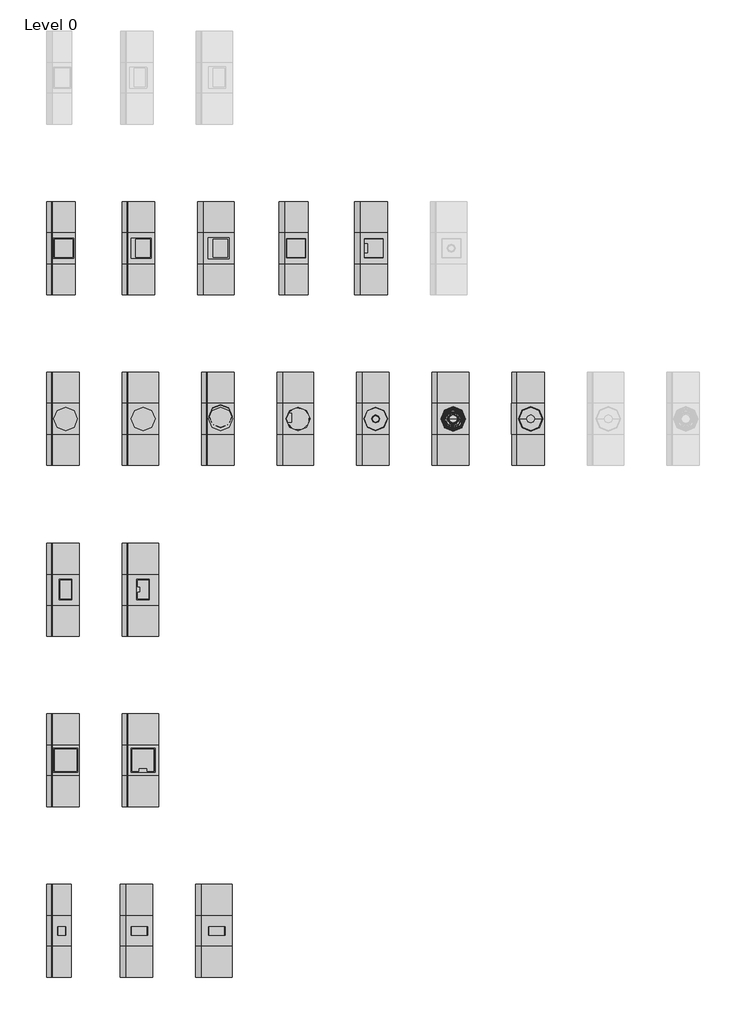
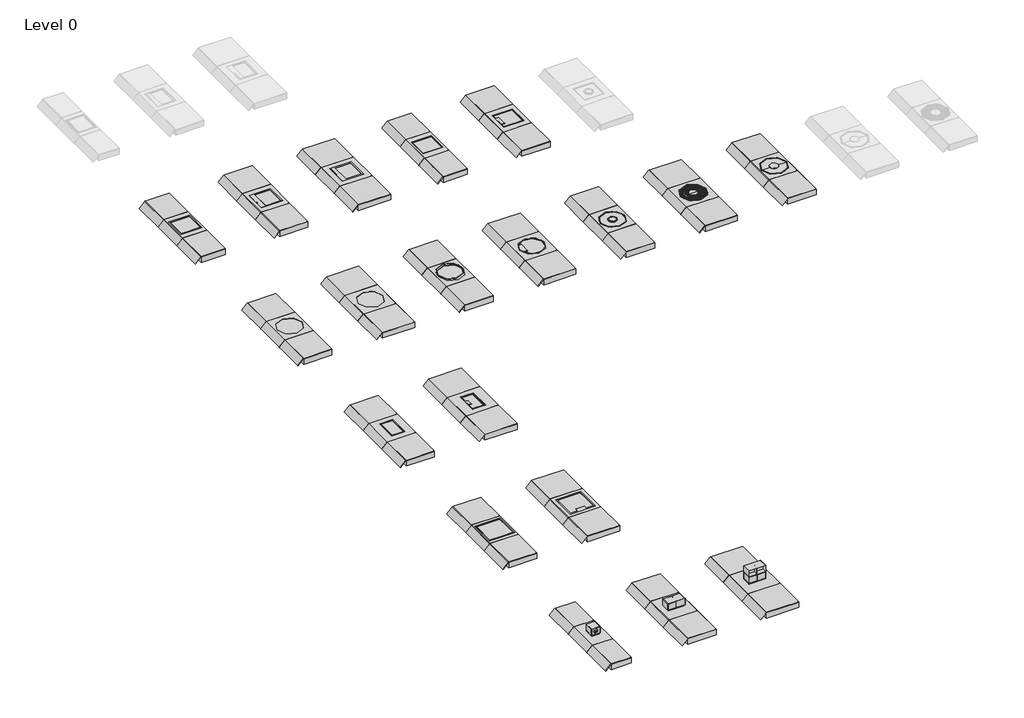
# One storey, part 1 of 2: 74 proxies, 19 cable carrier segments.
"""IFC4 building model written with IfcOpenShell, lengths in millimetres."""

from ifc_helpers import new_model, si_unit, frame, origin, place, context, project, spatial, polyline, outline, extrude, transform, mapped, element, save
from components import electrical_fixtures_814ce579, electrical_fixtures_1408edab, electrical_fixtures_e29cb0aa, electrical_fixtures_057aeb0d, electrical_fixtures_bc675c06, electrical_fixtures_8ed366d0, electrical_fixtures_8427cab8, electrical_fixtures_2923e737, electrical_fixtures_6f066a29, electrical_fixtures_dd45cec8, electrical_fixtures_6b5bff6d, electrical_fixtures_3a1a2a50, electrical_fixtures_38a7e8f5, electrical_fixtures_79a94ea6, electrical_fixtures_345be723, electrical_fixtures_3529a418, electrical_fixtures_39b6e9ab, electrical_fixtures_66444e16, electrical_fixtures_d09597e5, electrical_fixtures_02c799a8, electrical_fixtures_ac32d23e, electrical_fixtures_5756d35e, color_deep_black_c4cdae59, color_deep_black_3e0b7094, color_deep_black_f01a6ed9, color_deep_black_c19cb628, color_deep_black_fa90bbad, color_deep_black_919f03ab, stainless_steel_cassette_q12_bl_outer_height_28mm_38aa1d54, stainless_steel_cassette_q12_le_outer_height_28mm_4387def9, stainless_steel_cassette_r12_bl_outer_height_28mm_40ef087e, stainless_steel_cassette_r12_le_outer_height_28mm_8af35c53, stainless_steel_cassette_r12_tm_outer_height_28mm_dc089dfa

model = new_model("IFC4")

# Units and contexts
model_context = context("Model", 3, world=origin())
ifc_project = project(units=[si_unit("LENGTHUNIT", "METRE", prefix="MILLI")], contexts=[model_context])

# Site, building, storey
site = spatial("IfcSite", under=ifc_project)
building = spatial("IfcBuilding", under=site)
storey = spatial("IfcBuildingStorey", under=building, Name="Level 0", Elevation=0.0)

# Proxies
placement = place(None, origin())
electrical_fixtures_shape = electrical_fixtures_814ce579(model_context)
element("IfcBuildingElementProxy", 1, Name="Electrical_Installation_Hager_Covers-With-Installation-Opening-Q12 : Electrical_Installation_Hager_Covers-With-Installation-Opening-Q12", ObjectType="Electrical_Installation_Hager_Covers-With-Installation-Opening-Q12 : Electrical_Installation_Hager_Covers-With-Installation-Opening-Q12", at=placement, inside=storey, context=model_context, shape_type="MappedRepresentation", body=[
    mapped(electrical_fixtures_shape, transform((-23489.0073184, -1020.0103905, 0.0), x_axis=(0.0, -1.0, 0.0), y_axis=(1.0, 0.0, 0.0), z_axis=(0.0, 0.0, 1.0))),
])
element("IfcBuildingElementProxy", 2, Name="Electrical_Installation_Hager_Covers-With-Installation-Opening-Q12 : Electrical_Installation_Hager_Covers-With-Installation-Opening-Q12", ObjectType="Electrical_Installation_Hager_Covers-With-Installation-Opening-Q12 : Electrical_Installation_Hager_Covers-With-Installation-Opening-Q12", at=placement, inside=storey, context=model_context, shape_type="MappedRepresentation", body=[
    mapped(electrical_fixtures_shape, transform((-20489.0073184, -1020.0103905, 0.0), x_axis=(0.0, -1.0, 0.0), y_axis=(1.0, 0.0, 0.0), z_axis=(0.0, 0.0, 1.0))),
])
electrical_fixtures_2_shape = electrical_fixtures_1408edab(model_context)
element("IfcBuildingElementProxy", 3, Name="Electrical_Installation_Hager_Covers-With-Installation-Opening-Q12 : Electrical_Installation_Hager_Covers-With-Installation-Opening-Q12", ObjectType="Electrical_Installation_Hager_Covers-With-Installation-Opening-Q12 : Electrical_Installation_Hager_Covers-With-Installation-Opening-Q12", at=placement, inside=storey, context=model_context, shape_type="MappedRepresentation", body=[
    mapped(electrical_fixtures_2_shape, transform((-22489.0073184, -1020.0103905, 0.0), x_axis=(0.0, -1.0, 0.0), y_axis=(1.0, 0.0, 0.0), z_axis=(0.0, 0.0, 1.0))),
])
electrical_fixtures_3_shape = electrical_fixtures_e29cb0aa(model_context)
element("IfcBuildingElementProxy", 4, Name="Electrical_Installation_Hager_VE-EE_VANR_3mm_Service-unit-for-wet-cleaned-floors-for-the-installation-tube-cable-outlet-made-of-aluminium : Service unit R12 w set HB wet Al-Tub 3mm", ObjectType="Electrical_Installation_Hager_VE-EE_VANR_3mm_Service-unit-for-wet-cleaned-floors-for-the-installation-tube-cable-outlet-made-of-aluminium : Service unit R12 w set HB wet Al-Tub 3mm", at=placement, inside=storey, context=model_context, shape_type="MappedRepresentation", body=[
    mapped(electrical_fixtures_3_shape, transform((-18464.0073184, -3420.0103905, 40.5), x_axis=(0.0, -1.0, 0.0), y_axis=(1.0, 0.0, 0.0), z_axis=(0.0, 0.0, 1.0))),
])
electrical_fixtures_4_shape = electrical_fixtures_057aeb0d(model_context)
element("IfcBuildingElementProxy", 5, Name="Electrical_Installation_Hager_VE-EE_VANR-Service-unit-for-wet-cleaned-floors-for-the-installation-tube-cable-outlet-made-of-aluminium : Service unit R12 w set HB wet Al-Tub R", ObjectType="Electrical_Installation_Hager_VE-EE_VANR-Service-unit-for-wet-cleaned-floors-for-the-installation-tube-cable-outlet-made-of-aluminium : Service unit R12 w set HB wet Al-Tub R", at=placement, inside=storey, context=model_context, shape_type="MappedRepresentation", body=[
    mapped(electrical_fixtures_4_shape, transform((-19464.0073184, -3420.0103905, 40.5), x_axis=(0.0, -1.0, 0.0), y_axis=(1.0, 0.0, 0.0), z_axis=(0.0, 0.0, 1.0))),
])
electrical_fixtures_5_shape = electrical_fixtures_bc675c06(model_context)
element("IfcBuildingElementProxy", 6, Name="Electrical_Installation_Hager_VE-EE_Pedestal-box-2 : GB pedestal box 2 inst. fields iron gray", ObjectType="Electrical_Installation_Hager_VE-EE_Pedestal-box-2 : GB pedestal box 2 inst. fields iron gray", at=placement, inside=storey, context=model_context, shape_type="MappedRepresentation", body=[
    mapped(electrical_fixtures_5_shape, transform((-24514.0073184, -10020.0103905, 40.5), x_axis=(0.0, -1.0, 0.0), y_axis=(1.0, 0.0, 0.0), z_axis=(0.0, 0.0, 1.0))),
])
electrical_fixtures_6_shape = electrical_fixtures_8ed366d0(model_context)
element("IfcBuildingElementProxy", 7, Name="Electrical_Installation_Hager_VE-EE_Pedestal-box-4 : GB pedestal box 4 inst. fields iron gray", ObjectType="Electrical_Installation_Hager_VE-EE_Pedestal-box-4 : GB pedestal box 4 inst. fields iron gray", at=placement, inside=storey, context=model_context, shape_type="MappedRepresentation", body=[
    mapped(electrical_fixtures_6_shape, transform((-23514.0073184, -10020.0103905, 40.5), x_axis=(0.0, -1.0, 0.0), y_axis=(1.0, 0.0, 0.0), z_axis=(0.0, 0.0, 1.0))),
])
electrical_fixtures_7_shape = electrical_fixtures_8427cab8(model_context)
element("IfcBuildingElementProxy", 8, Name="Electrical_Installation_Hager_VE-EE_Service-unit-VQ12-made-of-stainless-steel : Electrical_Installation_Hager_VE-EE_Service-unit-VQ12-made-of-stainless-steel", ObjectType="Electrical_Installation_Hager_VE-EE_Service-unit-VQ12-made-of-stainless-steel : Electrical_Installation_Hager_VE-EE_Service-unit-VQ12-made-of-stainless-steel", at=placement, inside=storey, context=model_context, shape_type="MappedRepresentation", body=[
    mapped(electrical_fixtures_7_shape, transform((-22489.0073184, -1220.0103905, 40.5), x_axis=(0.0, -1.0, 0.0), y_axis=(1.0, 0.0, 0.0), z_axis=(0.0, 0.0, 1.0))),
])
electrical_fixtures_8_shape = electrical_fixtures_2923e737(model_context)
element("IfcBuildingElementProxy", 9, Name="Electrical_Installation_Hager_Covers-With-Installation-Opening-Q08 : Electrical_Installation_Hager_Covers-With-Installation-Opening-Q08", ObjectType="Electrical_Installation_Hager_Covers-With-Installation-Opening-Q08 : Electrical_Installation_Hager_Covers-With-Installation-Opening-Q08", at=placement, inside=storey, context=model_context, shape_type="MappedRepresentation", body=[
    mapped(electrical_fixtures_8_shape, transform((-24463.9572711, -7620.0103905, 0.0), x_axis=(0.0, -1.0, 0.0), y_axis=(1.0, 0.0, 0.0), z_axis=(0.0, 0.0, 1.0))),
])
electrical_fixtures_9_shape = electrical_fixtures_6f066a29(model_context)
element("IfcBuildingElementProxy", 10, Name="Electrical_Installation_Hager_Covers-With-Installation-Opening-Q12 : Electrical_Installation_Hager_Covers-With-Installation-Opening-Q12", ObjectType="Electrical_Installation_Hager_Covers-With-Installation-Opening-Q12 : Electrical_Installation_Hager_Covers-With-Installation-Opening-Q12", at=placement, inside=storey, context=model_context, shape_type="MappedRepresentation", body=[
    mapped(electrical_fixtures_9_shape, transform((-24489.0073184, -1020.0103905, 0.0), x_axis=(0.0, -1.0, 0.0), y_axis=(1.0, 0.0, 0.0), z_axis=(0.0, 0.0, 1.0))),
])
element("IfcBuildingElementProxy", 11, Name="Electrical_Installation_Hager_Covers-With-Installation-Opening-Q12 : Electrical_Installation_Hager_Covers-With-Installation-Opening-Q12", ObjectType="Electrical_Installation_Hager_Covers-With-Installation-Opening-Q12 : Electrical_Installation_Hager_Covers-With-Installation-Opening-Q12", at=placement, inside=storey, context=model_context, shape_type="MappedRepresentation", body=[
    mapped(electrical_fixtures_9_shape, transform((-21489.0073184, -1020.0103905, 0.0), x_axis=(0.0, -1.0, 0.0), y_axis=(1.0, 0.0, 0.0), z_axis=(0.0, 0.0, 1.0))),
])
electrical_fixtures_10_shape = electrical_fixtures_dd45cec8(model_context)
element("IfcBuildingElementProxy", 12, Name="Electrical_Installation_Hager_VE-EE_Pedestal-box-8 : GB pedestal box 8 inst. fields iron gray", ObjectType="Electrical_Installation_Hager_VE-EE_Pedestal-box-8 : GB pedestal box 8 inst. fields iron gray", at=placement, inside=storey, context=model_context, shape_type="MappedRepresentation", body=[
    mapped(electrical_fixtures_10_shape, transform((-22514.0073184, -10020.0103905, 40.5), x_axis=(0.0, -1.0, 0.0), y_axis=(1.0, 0.0, 0.0), z_axis=(0.0, 0.0, 1.0))),
])
electrical_fixtures_11_shape = electrical_fixtures_6b5bff6d(model_context)
element("IfcBuildingElementProxy", 13, Name="Electrical_Installation_Hager_Covers-With-Installation-Opening-R12 : Electrical_Installation_Hager_Covers-With-Installation-Opening-R12", ObjectType="Electrical_Installation_Hager_Covers-With-Installation-Opening-R12 : Electrical_Installation_Hager_Covers-With-Installation-Opening-R12", at=placement, inside=storey, context=model_context, shape_type="MappedRepresentation", body=[
    mapped(electrical_fixtures_11_shape, transform((-24464.0073184, -3220.0103905, 0.0), x_axis=(0.0, -1.0, 0.0), y_axis=(1.0, 0.0, 0.0), z_axis=(0.0, 0.0, 1.0))),
])
element("IfcBuildingElementProxy", 14, Name="Electrical_Installation_Hager_Covers-With-Installation-Opening-R12 : Electrical_Installation_Hager_Covers-With-Installation-Opening-R12", ObjectType="Electrical_Installation_Hager_Covers-With-Installation-Opening-R12 : Electrical_Installation_Hager_Covers-With-Installation-Opening-R12", at=placement, inside=storey, context=model_context, shape_type="MappedRepresentation", body=[
    mapped(electrical_fixtures_11_shape, transform((-22464.0073184, -3220.0103905, 0.0), x_axis=(0.0, -1.0, 0.0), y_axis=(1.0, 0.0, 0.0), z_axis=(0.0, 0.0, 1.0))),
])
element("IfcBuildingElementProxy", 15, Name="Electrical_Installation_Hager_Covers-With-Installation-Opening-R12 : Electrical_Installation_Hager_Covers-With-Installation-Opening-R12", ObjectType="Electrical_Installation_Hager_Covers-With-Installation-Opening-R12 : Electrical_Installation_Hager_Covers-With-Installation-Opening-R12", at=placement, inside=storey, context=model_context, shape_type="MappedRepresentation", body=[
    mapped(electrical_fixtures_11_shape, transform((-20464.0073184, -3220.0103905, 0.0), x_axis=(0.0, -1.0, 0.0), y_axis=(1.0, 0.0, 0.0), z_axis=(0.0, 0.0, 1.0))),
])
element("IfcBuildingElementProxy", 16, Name="Electrical_Installation_Hager_Covers-With-Installation-Opening-R12 : Electrical_Installation_Hager_Covers-With-Installation-Opening-R12", ObjectType="Electrical_Installation_Hager_Covers-With-Installation-Opening-R12 : Electrical_Installation_Hager_Covers-With-Installation-Opening-R12", at=placement, inside=storey, context=model_context, shape_type="MappedRepresentation", body=[
    mapped(electrical_fixtures_11_shape, transform((-18464.0073184, -3220.0103905, 0.0), x_axis=(0.0, -1.0, 0.0), y_axis=(1.0, 0.0, 0.0), z_axis=(0.0, 0.0, 1.0))),
])
electrical_fixtures_12_shape = electrical_fixtures_3a1a2a50(model_context)
element("IfcBuildingElementProxy", 17, Name="Electrical_Installation_Hager_Covers-With-Installation-Opening-R12 : Electrical_Installation_Hager_Covers-With-Installation-Opening-R12", ObjectType="Electrical_Installation_Hager_Covers-With-Installation-Opening-R12 : Electrical_Installation_Hager_Covers-With-Installation-Opening-R12", at=placement, inside=storey, context=model_context, shape_type="MappedRepresentation", body=[
    mapped(electrical_fixtures_12_shape, transform((-23464.0073184, -3220.0103905, 0.0), x_axis=(0.0, -1.0, 0.0), y_axis=(1.0, 0.0, 0.0), z_axis=(0.0, 0.0, 1.0))),
])
element("IfcBuildingElementProxy", 18, Name="Electrical_Installation_Hager_Covers-With-Installation-Opening-R12 : Electrical_Installation_Hager_Covers-With-Installation-Opening-R12", ObjectType="Electrical_Installation_Hager_Covers-With-Installation-Opening-R12 : Electrical_Installation_Hager_Covers-With-Installation-Opening-R12", at=placement, inside=storey, context=model_context, shape_type="MappedRepresentation", body=[
    mapped(electrical_fixtures_12_shape, transform((-21464.0073184, -3220.0103905, 0.0), x_axis=(0.0, -1.0, 0.0), y_axis=(1.0, 0.0, 0.0), z_axis=(0.0, 0.0, 1.0))),
])
element("IfcBuildingElementProxy", 19, Name="Electrical_Installation_Hager_Covers-With-Installation-Opening-R12 : Electrical_Installation_Hager_Covers-With-Installation-Opening-R12", ObjectType="Electrical_Installation_Hager_Covers-With-Installation-Opening-R12 : Electrical_Installation_Hager_Covers-With-Installation-Opening-R12", at=placement, inside=storey, context=model_context, shape_type="MappedRepresentation", body=[
    mapped(electrical_fixtures_12_shape, transform((-19464.0073184, -3220.0103905, 0.0), x_axis=(0.0, -1.0, 0.0), y_axis=(1.0, 0.0, 0.0), z_axis=(0.0, 0.0, 1.0))),
])
electrical_fixtures_13_shape = electrical_fixtures_38a7e8f5(model_context)
element("IfcBuildingElementProxy", 20, Name="Electrical_Installation_Hager_Blank-Cover-400mm-Single-Sided-Height-70mm : Electrical_Installation_Hager_Blank-Cover-400mm-Single-Sided-Height-70mm", ObjectType="Electrical_Installation_Hager_Blank-Cover-400mm-Single-Sided-Height-70mm : Electrical_Installation_Hager_Blank-Cover-400mm-Single-Sided-Height-70mm", at=placement, inside=storey, context=model_context, shape_type="MappedRepresentation", body=[
    mapped(electrical_fixtures_13_shape, transform((-24514.0073184, -9420.0103905, 0.0), x_axis=(0.0, -1.0, 0.0), y_axis=(1.0, 0.0, 0.0), z_axis=(0.0, 0.0, 1.0))),
])
element("IfcBuildingElementProxy", 21, Name="Electrical_Installation_Hager_Blank-Cover-400mm-Single-Sided-Height-70mm : Electrical_Installation_Hager_Blank-Cover-400mm-Single-Sided-Height-70mm", ObjectType="Electrical_Installation_Hager_Blank-Cover-400mm-Single-Sided-Height-70mm : Electrical_Installation_Hager_Blank-Cover-400mm-Single-Sided-Height-70mm", at=placement, inside=storey, context=model_context, shape_type="MappedRepresentation", body=[
    mapped(electrical_fixtures_13_shape, transform((-24514.0073184, -10220.0103905, 0.0), x_axis=(0.0, -1.0, 0.0), y_axis=(1.0, 0.0, 0.0), z_axis=(0.0, 0.0, 1.0))),
])
electrical_fixtures_14_shape = electrical_fixtures_79a94ea6(model_context)
element("IfcBuildingElementProxy", 22, Name="Electrical_Installation_Hager_Blank-Cover-400mm-Single-Sided-Height-70mm : Electrical_Installation_Hager_Blank-Cover-400mm-Single-Sided-Height-70mm", ObjectType="Electrical_Installation_Hager_Blank-Cover-400mm-Single-Sided-Height-70mm : Electrical_Installation_Hager_Blank-Cover-400mm-Single-Sided-Height-70mm", at=placement, inside=storey, context=model_context, shape_type="MappedRepresentation", body=[
    mapped(electrical_fixtures_14_shape, transform((-23489.0073184, -620.0103905, 0.0), x_axis=(0.0, -1.0, 0.0), y_axis=(1.0, 0.0, 0.0), z_axis=(0.0, 0.0, 1.0))),
])
element("IfcBuildingElementProxy", 23, Name="Electrical_Installation_Hager_Blank-Cover-400mm-Single-Sided-Height-70mm : Electrical_Installation_Hager_Blank-Cover-400mm-Single-Sided-Height-70mm", ObjectType="Electrical_Installation_Hager_Blank-Cover-400mm-Single-Sided-Height-70mm : Electrical_Installation_Hager_Blank-Cover-400mm-Single-Sided-Height-70mm", at=placement, inside=storey, context=model_context, shape_type="MappedRepresentation", body=[
    mapped(electrical_fixtures_14_shape, transform((-23489.0073184, -1420.0103905, 0.0), x_axis=(0.0, -1.0, 0.0), y_axis=(1.0, 0.0, 0.0), z_axis=(0.0, 0.0, 1.0))),
])
element("IfcBuildingElementProxy", 24, Name="Electrical_Installation_Hager_Blank-Cover-400mm-Single-Sided-Height-70mm : Electrical_Installation_Hager_Blank-Cover-400mm-Single-Sided-Height-70mm", ObjectType="Electrical_Installation_Hager_Blank-Cover-400mm-Single-Sided-Height-70mm : Electrical_Installation_Hager_Blank-Cover-400mm-Single-Sided-Height-70mm", at=placement, inside=storey, context=model_context, shape_type="MappedRepresentation", body=[
    mapped(electrical_fixtures_14_shape, transform((-20489.0073184, -620.0103905, 0.0), x_axis=(0.0, -1.0, 0.0), y_axis=(1.0, 0.0, 0.0), z_axis=(0.0, 0.0, 1.0))),
])
element("IfcBuildingElementProxy", 25, Name="Electrical_Installation_Hager_Blank-Cover-400mm-Single-Sided-Height-70mm : Electrical_Installation_Hager_Blank-Cover-400mm-Single-Sided-Height-70mm", ObjectType="Electrical_Installation_Hager_Blank-Cover-400mm-Single-Sided-Height-70mm : Electrical_Installation_Hager_Blank-Cover-400mm-Single-Sided-Height-70mm", at=placement, inside=storey, context=model_context, shape_type="MappedRepresentation", body=[
    mapped(electrical_fixtures_14_shape, transform((-20489.0073184, -1420.0103905, 0.0), x_axis=(0.0, -1.0, 0.0), y_axis=(1.0, 0.0, 0.0), z_axis=(0.0, 0.0, 1.0))),
])
element("IfcBuildingElementProxy", 26, Name="Electrical_Installation_Hager_Blank-Cover-400mm-Single-Sided-Height-70mm : Electrical_Installation_Hager_Blank-Cover-400mm-Single-Sided-Height-70mm", ObjectType="Electrical_Installation_Hager_Blank-Cover-400mm-Single-Sided-Height-70mm : Electrical_Installation_Hager_Blank-Cover-400mm-Single-Sided-Height-70mm", at=placement, inside=storey, context=model_context, shape_type="MappedRepresentation", body=[
    mapped(electrical_fixtures_14_shape, transform((-24464.0073184, -2820.0103905, 0.0), x_axis=(0.0, -1.0, 0.0), y_axis=(1.0, 0.0, 0.0), z_axis=(0.0, 0.0, 1.0))),
])
element("IfcBuildingElementProxy", 27, Name="Electrical_Installation_Hager_Blank-Cover-400mm-Single-Sided-Height-70mm : Electrical_Installation_Hager_Blank-Cover-400mm-Single-Sided-Height-70mm", ObjectType="Electrical_Installation_Hager_Blank-Cover-400mm-Single-Sided-Height-70mm : Electrical_Installation_Hager_Blank-Cover-400mm-Single-Sided-Height-70mm", at=placement, inside=storey, context=model_context, shape_type="MappedRepresentation", body=[
    mapped(electrical_fixtures_14_shape, transform((-24464.0073184, -3620.0103905, 0.0), x_axis=(0.0, -1.0, 0.0), y_axis=(1.0, 0.0, 0.0), z_axis=(0.0, 0.0, 1.0))),
])
element("IfcBuildingElementProxy", 28, Name="Electrical_Installation_Hager_Blank-Cover-400mm-Single-Sided-Height-70mm : Electrical_Installation_Hager_Blank-Cover-400mm-Single-Sided-Height-70mm", ObjectType="Electrical_Installation_Hager_Blank-Cover-400mm-Single-Sided-Height-70mm : Electrical_Installation_Hager_Blank-Cover-400mm-Single-Sided-Height-70mm", at=placement, inside=storey, context=model_context, shape_type="MappedRepresentation", body=[
    mapped(electrical_fixtures_14_shape, transform((-22464.0073184, -2820.0103905, 0.0), x_axis=(0.0, -1.0, 0.0), y_axis=(1.0, 0.0, 0.0), z_axis=(0.0, 0.0, 1.0))),
])
element("IfcBuildingElementProxy", 29, Name="Electrical_Installation_Hager_Blank-Cover-400mm-Single-Sided-Height-70mm : Electrical_Installation_Hager_Blank-Cover-400mm-Single-Sided-Height-70mm", ObjectType="Electrical_Installation_Hager_Blank-Cover-400mm-Single-Sided-Height-70mm : Electrical_Installation_Hager_Blank-Cover-400mm-Single-Sided-Height-70mm", at=placement, inside=storey, context=model_context, shape_type="MappedRepresentation", body=[
    mapped(electrical_fixtures_14_shape, transform((-22464.0073184, -3620.0103905, 0.0), x_axis=(0.0, -1.0, 0.0), y_axis=(1.0, 0.0, 0.0), z_axis=(0.0, 0.0, 1.0))),
])
element("IfcBuildingElementProxy", 30, Name="Electrical_Installation_Hager_Blank-Cover-400mm-Single-Sided-Height-70mm : Electrical_Installation_Hager_Blank-Cover-400mm-Single-Sided-Height-70mm", ObjectType="Electrical_Installation_Hager_Blank-Cover-400mm-Single-Sided-Height-70mm : Electrical_Installation_Hager_Blank-Cover-400mm-Single-Sided-Height-70mm", at=placement, inside=storey, context=model_context, shape_type="MappedRepresentation", body=[
    mapped(electrical_fixtures_14_shape, transform((-20464.0073184, -2820.0103905, 0.0), x_axis=(0.0, -1.0, 0.0), y_axis=(1.0, 0.0, 0.0), z_axis=(0.0, 0.0, 1.0))),
])
element("IfcBuildingElementProxy", 31, Name="Electrical_Installation_Hager_Blank-Cover-400mm-Single-Sided-Height-70mm : Electrical_Installation_Hager_Blank-Cover-400mm-Single-Sided-Height-70mm", ObjectType="Electrical_Installation_Hager_Blank-Cover-400mm-Single-Sided-Height-70mm : Electrical_Installation_Hager_Blank-Cover-400mm-Single-Sided-Height-70mm", at=placement, inside=storey, context=model_context, shape_type="MappedRepresentation", body=[
    mapped(electrical_fixtures_14_shape, transform((-20464.0073184, -3620.0103905, 0.0), x_axis=(0.0, -1.0, 0.0), y_axis=(1.0, 0.0, 0.0), z_axis=(0.0, 0.0, 1.0))),
])
element("IfcBuildingElementProxy", 32, Name="Electrical_Installation_Hager_Blank-Cover-400mm-Single-Sided-Height-70mm : Electrical_Installation_Hager_Blank-Cover-400mm-Single-Sided-Height-70mm", ObjectType="Electrical_Installation_Hager_Blank-Cover-400mm-Single-Sided-Height-70mm : Electrical_Installation_Hager_Blank-Cover-400mm-Single-Sided-Height-70mm", at=placement, inside=storey, context=model_context, shape_type="MappedRepresentation", body=[
    mapped(electrical_fixtures_14_shape, transform((-18464.0073184, -2820.0103905, 0.0), x_axis=(0.0, -1.0, 0.0), y_axis=(1.0, 0.0, 0.0), z_axis=(0.0, 0.0, 1.0))),
])
element("IfcBuildingElementProxy", 33, Name="Electrical_Installation_Hager_Blank-Cover-400mm-Single-Sided-Height-70mm : Electrical_Installation_Hager_Blank-Cover-400mm-Single-Sided-Height-70mm", ObjectType="Electrical_Installation_Hager_Blank-Cover-400mm-Single-Sided-Height-70mm : Electrical_Installation_Hager_Blank-Cover-400mm-Single-Sided-Height-70mm", at=placement, inside=storey, context=model_context, shape_type="MappedRepresentation", body=[
    mapped(electrical_fixtures_14_shape, transform((-18464.0073184, -3620.0103905, 0.0), x_axis=(0.0, -1.0, 0.0), y_axis=(1.0, 0.0, 0.0), z_axis=(0.0, 0.0, 1.0))),
])
element("IfcBuildingElementProxy", 34, Name="Electrical_Installation_Hager_Blank-Cover-400mm-Single-Sided-Height-70mm : Electrical_Installation_Hager_Blank-Cover-400mm-Single-Sided-Height-70mm", ObjectType="Electrical_Installation_Hager_Blank-Cover-400mm-Single-Sided-Height-70mm : Electrical_Installation_Hager_Blank-Cover-400mm-Single-Sided-Height-70mm", at=placement, inside=storey, context=model_context, shape_type="MappedRepresentation", body=[
    mapped(electrical_fixtures_14_shape, transform((-24464.0073184, -5020.0103905, 0.0), x_axis=(0.0, -1.0, 0.0), y_axis=(1.0, 0.0, 0.0), z_axis=(0.0, 0.0, 1.0))),
])
element("IfcBuildingElementProxy", 35, Name="Electrical_Installation_Hager_Blank-Cover-400mm-Single-Sided-Height-70mm : Electrical_Installation_Hager_Blank-Cover-400mm-Single-Sided-Height-70mm", ObjectType="Electrical_Installation_Hager_Blank-Cover-400mm-Single-Sided-Height-70mm : Electrical_Installation_Hager_Blank-Cover-400mm-Single-Sided-Height-70mm", at=placement, inside=storey, context=model_context, shape_type="MappedRepresentation", body=[
    mapped(electrical_fixtures_14_shape, transform((-24464.0073184, -5820.0103905, 0.0), x_axis=(0.0, -1.0, 0.0), y_axis=(1.0, 0.0, 0.0), z_axis=(0.0, 0.0, 1.0))),
])
element("IfcBuildingElementProxy", 36, Name="Electrical_Installation_Hager_Blank-Cover-400mm-Single-Sided-Height-70mm : Electrical_Installation_Hager_Blank-Cover-400mm-Single-Sided-Height-70mm", ObjectType="Electrical_Installation_Hager_Blank-Cover-400mm-Single-Sided-Height-70mm : Electrical_Installation_Hager_Blank-Cover-400mm-Single-Sided-Height-70mm", at=placement, inside=storey, context=model_context, shape_type="MappedRepresentation", body=[
    mapped(electrical_fixtures_14_shape, transform((-24463.9572711, -7220.0103905, 0.0), x_axis=(0.0, -1.0, 0.0), y_axis=(1.0, 0.0, 0.0), z_axis=(0.0, 0.0, 1.0))),
])
element("IfcBuildingElementProxy", 37, Name="Electrical_Installation_Hager_Blank-Cover-400mm-Single-Sided-Height-70mm : Electrical_Installation_Hager_Blank-Cover-400mm-Single-Sided-Height-70mm", ObjectType="Electrical_Installation_Hager_Blank-Cover-400mm-Single-Sided-Height-70mm : Electrical_Installation_Hager_Blank-Cover-400mm-Single-Sided-Height-70mm", at=placement, inside=storey, context=model_context, shape_type="MappedRepresentation", body=[
    mapped(electrical_fixtures_14_shape, transform((-24463.9572711, -8020.0103905, 0.0), x_axis=(0.0, -1.0, 0.0), y_axis=(1.0, 0.0, 0.0), z_axis=(0.0, 0.0, 1.0))),
])
element("IfcBuildingElementProxy", 38, Name="Electrical_Installation_Hager_Blank-Cover-400mm-Single-Sided-Height-70mm : Electrical_Installation_Hager_Blank-Cover-400mm-Single-Sided-Height-70mm", ObjectType="Electrical_Installation_Hager_Blank-Cover-400mm-Single-Sided-Height-70mm : Electrical_Installation_Hager_Blank-Cover-400mm-Single-Sided-Height-70mm", at=placement, inside=storey, context=model_context, shape_type="MappedRepresentation", body=[
    mapped(electrical_fixtures_14_shape, transform((-23514.0073184, -9420.0103905, 0.0), x_axis=(0.0, -1.0, 0.0), y_axis=(1.0, 0.0, 0.0), z_axis=(0.0, 0.0, 1.0))),
])
element("IfcBuildingElementProxy", 39, Name="Electrical_Installation_Hager_Blank-Cover-400mm-Single-Sided-Height-70mm : Electrical_Installation_Hager_Blank-Cover-400mm-Single-Sided-Height-70mm", ObjectType="Electrical_Installation_Hager_Blank-Cover-400mm-Single-Sided-Height-70mm : Electrical_Installation_Hager_Blank-Cover-400mm-Single-Sided-Height-70mm", at=placement, inside=storey, context=model_context, shape_type="MappedRepresentation", body=[
    mapped(electrical_fixtures_14_shape, transform((-23514.0073184, -10220.0103905, 0.0), x_axis=(0.0, -1.0, 0.0), y_axis=(1.0, 0.0, 0.0), z_axis=(0.0, 0.0, 1.0))),
])
electrical_fixtures_15_shape = electrical_fixtures_345be723(model_context)
element("IfcBuildingElementProxy", 40, Name="Electrical_Installation_Hager_Blank-Cover-400mm-Single-Sided-Height-70mm : Electrical_Installation_Hager_Blank-Cover-400mm-Single-Sided-Height-70mm", ObjectType="Electrical_Installation_Hager_Blank-Cover-400mm-Single-Sided-Height-70mm : Electrical_Installation_Hager_Blank-Cover-400mm-Single-Sided-Height-70mm", at=placement, inside=storey, context=model_context, shape_type="MappedRepresentation", body=[
    mapped(electrical_fixtures_15_shape, transform((-22489.0073184, -620.0103905, 0.0), x_axis=(0.0, -1.0, 0.0), y_axis=(1.0, 0.0, 0.0), z_axis=(0.0, 0.0, 1.0))),
])
element("IfcBuildingElementProxy", 41, Name="Electrical_Installation_Hager_Blank-Cover-400mm-Single-Sided-Height-70mm : Electrical_Installation_Hager_Blank-Cover-400mm-Single-Sided-Height-70mm", ObjectType="Electrical_Installation_Hager_Blank-Cover-400mm-Single-Sided-Height-70mm : Electrical_Installation_Hager_Blank-Cover-400mm-Single-Sided-Height-70mm", at=placement, inside=storey, context=model_context, shape_type="MappedRepresentation", body=[
    mapped(electrical_fixtures_15_shape, transform((-22489.0073184, -1420.0103905, 0.0), x_axis=(0.0, -1.0, 0.0), y_axis=(1.0, 0.0, 0.0), z_axis=(0.0, 0.0, 1.0))),
])
element("IfcBuildingElementProxy", 42, Name="Electrical_Installation_Hager_Blank-Cover-400mm-Single-Sided-Height-70mm : Electrical_Installation_Hager_Blank-Cover-400mm-Single-Sided-Height-70mm", ObjectType="Electrical_Installation_Hager_Blank-Cover-400mm-Single-Sided-Height-70mm : Electrical_Installation_Hager_Blank-Cover-400mm-Single-Sided-Height-70mm", at=placement, inside=storey, context=model_context, shape_type="MappedRepresentation", body=[
    mapped(electrical_fixtures_15_shape, transform((-23464.0073184, -2820.0103905, 0.0), x_axis=(0.0, -1.0, 0.0), y_axis=(1.0, 0.0, 0.0), z_axis=(0.0, 0.0, 1.0))),
])
element("IfcBuildingElementProxy", 43, Name="Electrical_Installation_Hager_Blank-Cover-400mm-Single-Sided-Height-70mm : Electrical_Installation_Hager_Blank-Cover-400mm-Single-Sided-Height-70mm", ObjectType="Electrical_Installation_Hager_Blank-Cover-400mm-Single-Sided-Height-70mm : Electrical_Installation_Hager_Blank-Cover-400mm-Single-Sided-Height-70mm", at=placement, inside=storey, context=model_context, shape_type="MappedRepresentation", body=[
    mapped(electrical_fixtures_15_shape, transform((-23464.0073184, -3620.0103905, 0.0), x_axis=(0.0, -1.0, 0.0), y_axis=(1.0, 0.0, 0.0), z_axis=(0.0, 0.0, 1.0))),
])
element("IfcBuildingElementProxy", 44, Name="Electrical_Installation_Hager_Blank-Cover-400mm-Single-Sided-Height-70mm : Electrical_Installation_Hager_Blank-Cover-400mm-Single-Sided-Height-70mm", ObjectType="Electrical_Installation_Hager_Blank-Cover-400mm-Single-Sided-Height-70mm : Electrical_Installation_Hager_Blank-Cover-400mm-Single-Sided-Height-70mm", at=placement, inside=storey, context=model_context, shape_type="MappedRepresentation", body=[
    mapped(electrical_fixtures_15_shape, transform((-21464.0073184, -2820.0103905, 0.0), x_axis=(0.0, -1.0, 0.0), y_axis=(1.0, 0.0, 0.0), z_axis=(0.0, 0.0, 1.0))),
])
element("IfcBuildingElementProxy", 45, Name="Electrical_Installation_Hager_Blank-Cover-400mm-Single-Sided-Height-70mm : Electrical_Installation_Hager_Blank-Cover-400mm-Single-Sided-Height-70mm", ObjectType="Electrical_Installation_Hager_Blank-Cover-400mm-Single-Sided-Height-70mm : Electrical_Installation_Hager_Blank-Cover-400mm-Single-Sided-Height-70mm", at=placement, inside=storey, context=model_context, shape_type="MappedRepresentation", body=[
    mapped(electrical_fixtures_15_shape, transform((-21464.0073184, -3620.0103905, 0.0), x_axis=(0.0, -1.0, 0.0), y_axis=(1.0, 0.0, 0.0), z_axis=(0.0, 0.0, 1.0))),
])
element("IfcBuildingElementProxy", 46, Name="Electrical_Installation_Hager_Blank-Cover-400mm-Single-Sided-Height-70mm : Electrical_Installation_Hager_Blank-Cover-400mm-Single-Sided-Height-70mm", ObjectType="Electrical_Installation_Hager_Blank-Cover-400mm-Single-Sided-Height-70mm : Electrical_Installation_Hager_Blank-Cover-400mm-Single-Sided-Height-70mm", at=placement, inside=storey, context=model_context, shape_type="MappedRepresentation", body=[
    mapped(electrical_fixtures_15_shape, transform((-19464.0073184, -2820.0103905, 0.0), x_axis=(0.0, -1.0, 0.0), y_axis=(1.0, 0.0, 0.0), z_axis=(0.0, 0.0, 1.0))),
])
element("IfcBuildingElementProxy", 47, Name="Electrical_Installation_Hager_Blank-Cover-400mm-Single-Sided-Height-70mm : Electrical_Installation_Hager_Blank-Cover-400mm-Single-Sided-Height-70mm", ObjectType="Electrical_Installation_Hager_Blank-Cover-400mm-Single-Sided-Height-70mm : Electrical_Installation_Hager_Blank-Cover-400mm-Single-Sided-Height-70mm", at=placement, inside=storey, context=model_context, shape_type="MappedRepresentation", body=[
    mapped(electrical_fixtures_15_shape, transform((-19464.0073184, -3620.0103905, 0.0), x_axis=(0.0, -1.0, 0.0), y_axis=(1.0, 0.0, 0.0), z_axis=(0.0, 0.0, 1.0))),
])
element("IfcBuildingElementProxy", 48, Name="Electrical_Installation_Hager_Blank-Cover-400mm-Single-Sided-Height-70mm : Electrical_Installation_Hager_Blank-Cover-400mm-Single-Sided-Height-70mm", ObjectType="Electrical_Installation_Hager_Blank-Cover-400mm-Single-Sided-Height-70mm : Electrical_Installation_Hager_Blank-Cover-400mm-Single-Sided-Height-70mm", at=placement, inside=storey, context=model_context, shape_type="MappedRepresentation", body=[
    mapped(electrical_fixtures_15_shape, transform((-23464.0073184, -5020.0103905, 0.0), x_axis=(0.0, -1.0, 0.0), y_axis=(1.0, 0.0, 0.0), z_axis=(0.0, 0.0, 1.0))),
])
element("IfcBuildingElementProxy", 49, Name="Electrical_Installation_Hager_Blank-Cover-400mm-Single-Sided-Height-70mm : Electrical_Installation_Hager_Blank-Cover-400mm-Single-Sided-Height-70mm", ObjectType="Electrical_Installation_Hager_Blank-Cover-400mm-Single-Sided-Height-70mm : Electrical_Installation_Hager_Blank-Cover-400mm-Single-Sided-Height-70mm", at=placement, inside=storey, context=model_context, shape_type="MappedRepresentation", body=[
    mapped(electrical_fixtures_15_shape, transform((-23464.0073184, -5820.0103905, 0.0), x_axis=(0.0, -1.0, 0.0), y_axis=(1.0, 0.0, 0.0), z_axis=(0.0, 0.0, 1.0))),
])
element("IfcBuildingElementProxy", 50, Name="Electrical_Installation_Hager_Blank-Cover-400mm-Single-Sided-Height-70mm : Electrical_Installation_Hager_Blank-Cover-400mm-Single-Sided-Height-70mm", ObjectType="Electrical_Installation_Hager_Blank-Cover-400mm-Single-Sided-Height-70mm : Electrical_Installation_Hager_Blank-Cover-400mm-Single-Sided-Height-70mm", at=placement, inside=storey, context=model_context, shape_type="MappedRepresentation", body=[
    mapped(electrical_fixtures_15_shape, transform((-23463.9572711, -7220.0103905, 0.0), x_axis=(0.0, -1.0, 0.0), y_axis=(1.0, 0.0, 0.0), z_axis=(0.0, 0.0, 1.0))),
])
element("IfcBuildingElementProxy", 51, Name="Electrical_Installation_Hager_Blank-Cover-400mm-Single-Sided-Height-70mm : Electrical_Installation_Hager_Blank-Cover-400mm-Single-Sided-Height-70mm", ObjectType="Electrical_Installation_Hager_Blank-Cover-400mm-Single-Sided-Height-70mm : Electrical_Installation_Hager_Blank-Cover-400mm-Single-Sided-Height-70mm", at=placement, inside=storey, context=model_context, shape_type="MappedRepresentation", body=[
    mapped(electrical_fixtures_15_shape, transform((-23463.9572711, -8020.0103905, 0.0), x_axis=(0.0, -1.0, 0.0), y_axis=(1.0, 0.0, 0.0), z_axis=(0.0, 0.0, 1.0))),
])
element("IfcBuildingElementProxy", 52, Name="Electrical_Installation_Hager_Blank-Cover-400mm-Single-Sided-Height-70mm : Electrical_Installation_Hager_Blank-Cover-400mm-Single-Sided-Height-70mm", ObjectType="Electrical_Installation_Hager_Blank-Cover-400mm-Single-Sided-Height-70mm : Electrical_Installation_Hager_Blank-Cover-400mm-Single-Sided-Height-70mm", at=placement, inside=storey, context=model_context, shape_type="MappedRepresentation", body=[
    mapped(electrical_fixtures_15_shape, transform((-22514.0073184, -9420.0103905, 0.0), x_axis=(0.0, -1.0, 0.0), y_axis=(1.0, 0.0, 0.0), z_axis=(0.0, 0.0, 1.0))),
])
element("IfcBuildingElementProxy", 53, Name="Electrical_Installation_Hager_Blank-Cover-400mm-Single-Sided-Height-70mm : Electrical_Installation_Hager_Blank-Cover-400mm-Single-Sided-Height-70mm", ObjectType="Electrical_Installation_Hager_Blank-Cover-400mm-Single-Sided-Height-70mm : Electrical_Installation_Hager_Blank-Cover-400mm-Single-Sided-Height-70mm", at=placement, inside=storey, context=model_context, shape_type="MappedRepresentation", body=[
    mapped(electrical_fixtures_15_shape, transform((-22514.0073184, -10220.0103905, 0.0), x_axis=(0.0, -1.0, 0.0), y_axis=(1.0, 0.0, 0.0), z_axis=(0.0, 0.0, 1.0))),
])
electrical_fixtures_16_shape = electrical_fixtures_3529a418(model_context)
element("IfcBuildingElementProxy", 54, Name="Electrical_Installation_Hager_Blank-Cover-400mm-Single-Sided-Height-70mm : Electrical_Installation_Hager_Blank-Cover-400mm-Single-Sided-Height-70mm", ObjectType="Electrical_Installation_Hager_Blank-Cover-400mm-Single-Sided-Height-70mm : Electrical_Installation_Hager_Blank-Cover-400mm-Single-Sided-Height-70mm", at=placement, inside=storey, context=model_context, shape_type="MappedRepresentation", body=[
    mapped(electrical_fixtures_16_shape, transform((-24489.0073184, -620.0103905, 0.0), x_axis=(0.0, -1.0, 0.0), y_axis=(1.0, 0.0, 0.0), z_axis=(0.0, 0.0, 1.0))),
])
element("IfcBuildingElementProxy", 55, Name="Electrical_Installation_Hager_Blank-Cover-400mm-Single-Sided-Height-70mm : Electrical_Installation_Hager_Blank-Cover-400mm-Single-Sided-Height-70mm", ObjectType="Electrical_Installation_Hager_Blank-Cover-400mm-Single-Sided-Height-70mm : Electrical_Installation_Hager_Blank-Cover-400mm-Single-Sided-Height-70mm", at=placement, inside=storey, context=model_context, shape_type="MappedRepresentation", body=[
    mapped(electrical_fixtures_16_shape, transform((-24489.0073184, -1420.0103905, 0.0), x_axis=(0.0, -1.0, 0.0), y_axis=(1.0, 0.0, 0.0), z_axis=(0.0, 0.0, 1.0))),
])
element("IfcBuildingElementProxy", 56, Name="Electrical_Installation_Hager_Blank-Cover-400mm-Single-Sided-Height-70mm : Electrical_Installation_Hager_Blank-Cover-400mm-Single-Sided-Height-70mm", ObjectType="Electrical_Installation_Hager_Blank-Cover-400mm-Single-Sided-Height-70mm : Electrical_Installation_Hager_Blank-Cover-400mm-Single-Sided-Height-70mm", at=placement, inside=storey, context=model_context, shape_type="MappedRepresentation", body=[
    mapped(electrical_fixtures_16_shape, transform((-21489.0073184, -620.0103905, 0.0), x_axis=(0.0, -1.0, 0.0), y_axis=(1.0, 0.0, 0.0), z_axis=(0.0, 0.0, 1.0))),
])
element("IfcBuildingElementProxy", 57, Name="Electrical_Installation_Hager_Blank-Cover-400mm-Single-Sided-Height-70mm : Electrical_Installation_Hager_Blank-Cover-400mm-Single-Sided-Height-70mm", ObjectType="Electrical_Installation_Hager_Blank-Cover-400mm-Single-Sided-Height-70mm : Electrical_Installation_Hager_Blank-Cover-400mm-Single-Sided-Height-70mm", at=placement, inside=storey, context=model_context, shape_type="MappedRepresentation", body=[
    mapped(electrical_fixtures_16_shape, transform((-21489.0073184, -1420.0103905, 0.0), x_axis=(0.0, -1.0, 0.0), y_axis=(1.0, 0.0, 0.0), z_axis=(0.0, 0.0, 1.0))),
])
electrical_fixtures_17_shape = electrical_fixtures_39b6e9ab(model_context)
element("IfcBuildingElementProxy", 58, Name="Electrical_Installation_Hager_Covers-With-Installation-Opening-E04 : Electrical_Installation_Hager_Covers-With-Installation-Opening-E04", ObjectType="Electrical_Installation_Hager_Covers-With-Installation-Opening-E04 : Electrical_Installation_Hager_Covers-With-Installation-Opening-E04", at=placement, inside=storey, context=model_context, shape_type="MappedRepresentation", body=[
    mapped(electrical_fixtures_17_shape, transform((-24464.0073184, -5420.0103905, 0.0), x_axis=(0.0, -1.0, 0.0), y_axis=(1.0, 0.0, 0.0), z_axis=(0.0, 0.0, 1.0))),
])
electrical_fixtures_18_shape = electrical_fixtures_66444e16(model_context)
element("IfcBuildingElementProxy", 59, Name="Electrical_Installation_Hager_Covers-With-Installation-Opening-E04 : Electrical_Installation_Hager_Covers-With-Installation-Opening-E04", ObjectType="Electrical_Installation_Hager_Covers-With-Installation-Opening-E04 : Electrical_Installation_Hager_Covers-With-Installation-Opening-E04", at=placement, inside=storey, context=model_context, shape_type="MappedRepresentation", body=[
    mapped(electrical_fixtures_18_shape, transform((-23464.0073184, -5420.0103905, 0.0), x_axis=(0.0, -1.0, 0.0), y_axis=(1.0, 0.0, 0.0), z_axis=(0.0, 0.0, 1.0))),
])
electrical_fixtures_19_shape = electrical_fixtures_d09597e5(model_context)
element("IfcBuildingElementProxy", 60, Name="Electrical_Installation_Hager_Covers-With-Installation-Opening-GBZ : Electrical_Installation_Hager_Covers-With-Installation-Opening-GBZ", ObjectType="Electrical_Installation_Hager_Covers-With-Installation-Opening-GBZ : Electrical_Installation_Hager_Covers-With-Installation-Opening-GBZ", at=placement, inside=storey, context=model_context, shape_type="MappedRepresentation", body=[
    mapped(electrical_fixtures_19_shape, transform((-24514.0073184, -9820.0103905, 0.0), x_axis=(0.0, -1.0, 0.0), y_axis=(1.0, 0.0, 0.0), z_axis=(0.0, 0.0, 1.0))),
])
electrical_fixtures_20_shape = electrical_fixtures_02c799a8(model_context)
element("IfcBuildingElementProxy", 61, Name="Electrical_Installation_Hager_Covers-With-Installation-Opening-GBZ : Electrical_Installation_Hager_Covers-With-Installation-Opening-GBZ", ObjectType="Electrical_Installation_Hager_Covers-With-Installation-Opening-GBZ : Electrical_Installation_Hager_Covers-With-Installation-Opening-GBZ", at=placement, inside=storey, context=model_context, shape_type="MappedRepresentation", body=[
    mapped(electrical_fixtures_20_shape, transform((-23514.0073184, -9820.0103905, 0.0), x_axis=(0.0, -1.0, 0.0), y_axis=(1.0, 0.0, 0.0), z_axis=(0.0, 0.0, 1.0))),
])
electrical_fixtures_21_shape = electrical_fixtures_ac32d23e(model_context)
element("IfcBuildingElementProxy", 62, Name="Electrical_Installation_Hager_Covers-With-Installation-Opening-GBZ : Electrical_Installation_Hager_Covers-With-Installation-Opening-GBZ", ObjectType="Electrical_Installation_Hager_Covers-With-Installation-Opening-GBZ : Electrical_Installation_Hager_Covers-With-Installation-Opening-GBZ", at=placement, inside=storey, context=model_context, shape_type="MappedRepresentation", body=[
    mapped(electrical_fixtures_21_shape, transform((-22514.0073184, -9820.0103905, 0.0), x_axis=(0.0, -1.0, 0.0), y_axis=(1.0, 0.0, 0.0), z_axis=(0.0, 0.0, 1.0))),
])
electrical_fixtures_22_shape = electrical_fixtures_5756d35e(model_context)
element("IfcBuildingElementProxy", 63, Name="Electrical_Installation_Hager_Covers-With-Installation-Opening-Q08 : Electrical_Installation_Hager_Covers-With-Installation-Opening-Q08", ObjectType="Electrical_Installation_Hager_Covers-With-Installation-Opening-Q08 : Electrical_Installation_Hager_Covers-With-Installation-Opening-Q08", at=placement, inside=storey, context=model_context, shape_type="MappedRepresentation", body=[
    mapped(electrical_fixtures_22_shape, transform((-23463.9572711, -7620.0103905, 0.0), x_axis=(0.0, -1.0, 0.0), y_axis=(1.0, 0.0, 0.0), z_axis=(0.0, 0.0, 1.0))),
])
color_deep_black_shape = color_deep_black_c4cdae59(model_context)
element("IfcBuildingElementProxy", 64, Name="Electrical_Installation_Hager_VE-EE_Cover-BDE04 : Color Deep Black", ObjectType="Electrical_Installation_Hager_VE-EE_Cover-BDE04 : Color Deep Black", at=placement, inside=storey, context=model_context, shape_type="MappedRepresentation", body=[
    mapped(color_deep_black_shape, transform((-24464.0073184, -5620.0103905, 40.5), x_axis=(0.0, -1.0, 0.0), y_axis=(1.0, 0.0, 0.0), z_axis=(0.0, 0.0, 1.0))),
])
color_deep_black_2_shape = color_deep_black_3e0b7094(model_context)
element("IfcBuildingElementProxy", 65, Name="Electrical_Installation_Hager_VE-EE_Cover-BDQ08 : Color Deep Black", ObjectType="Electrical_Installation_Hager_VE-EE_Cover-BDQ08 : Color Deep Black", at=placement, inside=storey, context=model_context, shape_type="MappedRepresentation", body=[
    mapped(color_deep_black_2_shape, transform((-24463.9572711, -7820.0103905, 40.5), x_axis=(0.0, -1.0, 0.0), y_axis=(1.0, 0.0, 0.0), z_axis=(0.0, 0.0, 1.0))),
])
color_deep_black_3_shape = color_deep_black_f01a6ed9(model_context)
element("IfcBuildingElementProxy", 66, Name="Electrical_Installation_Hager_VE-EE_Cover-KDQ08 : Color Deep Black", ObjectType="Electrical_Installation_Hager_VE-EE_Cover-KDQ08 : Color Deep Black", at=placement, inside=storey, context=model_context, shape_type="MappedRepresentation", body=[
    mapped(color_deep_black_3_shape, transform((-23463.9572711, -7820.0103905, 40.5), x_axis=(0.0, -1.0, 0.0), y_axis=(1.0, 0.0, 0.0), z_axis=(0.0, 0.0, 1.0))),
])
color_deep_black_4_shape = color_deep_black_c19cb628(model_context)
element("IfcBuildingElementProxy", 67, Name="Electrical_Installation_Hager_VE-EE_Cover-VDQ12 : Color Deep Black", ObjectType="Electrical_Installation_Hager_VE-EE_Cover-VDQ12 : Color Deep Black", at=placement, inside=storey, context=model_context, shape_type="MappedRepresentation", body=[
    mapped(color_deep_black_4_shape, transform((-24489.0073184, -1220.0103905, 40.5), x_axis=(0.0, -1.0, 0.0), y_axis=(1.0, 0.0, 0.0), z_axis=(0.0, 0.0, 1.0))),
])
color_deep_black_5_shape = color_deep_black_fa90bbad(model_context)
element("IfcBuildingElementProxy", 68, Name="Electrical_Installation_Hager_VE-EE_Service-Unit-VQ12 : Color Deep Black", ObjectType="Electrical_Installation_Hager_VE-EE_Service-Unit-VQ12 : Color Deep Black", at=placement, inside=storey, context=model_context, shape_type="MappedRepresentation", body=[
    mapped(color_deep_black_5_shape, transform((-23489.0073184, -1220.0103905, 40.5), x_axis=(0.0, -1.0, 0.0), y_axis=(1.0, 0.0, 0.0), z_axis=(0.0, 0.0, 1.0))),
])
color_deep_black_6_shape = color_deep_black_919f03ab(model_context)
element("IfcBuildingElementProxy", 69, Name="Electrical_Installation_Hager_VE-EE_Cover-KDE04 : Color Deep Black", ObjectType="Electrical_Installation_Hager_VE-EE_Cover-KDE04 : Color Deep Black", at=placement, inside=storey, context=model_context, shape_type="MappedRepresentation", body=[
    mapped(color_deep_black_6_shape, transform((-23464.0073184, -5620.0103905, 40.5), x_axis=(0.0, -1.0, 0.0), y_axis=(1.0, 0.0, 0.0), z_axis=(0.0, 0.0, 1.0))),
])
stainless_steel_cassette_q12_bl_outer_height_28mm_shape = stainless_steel_cassette_q12_bl_outer_height_28mm_38aa1d54(model_context)
element("IfcBuildingElementProxy", 70, Name="Electrical_Installation_Hager_VE-EE_EKQ-Height-adjustable-stainless-steel-cassette-blank-square-for-damp-cleaned-floors : Stainless-steel cassette Q12 BL outer height 28mm", ObjectType="Electrical_Installation_Hager_VE-EE_EKQ-Height-adjustable-stainless-steel-cassette-blank-square-for-damp-cleaned-floors : Stainless-steel cassette Q12 BL outer height 28mm", at=placement, inside=storey, context=model_context, shape_type="MappedRepresentation", body=[
    mapped(stainless_steel_cassette_q12_bl_outer_height_28mm_shape, transform((-21489.0073184, -1220.0103905, 40.5), x_axis=(0.0, -1.0, 0.0), y_axis=(1.0, 0.0, 0.0), z_axis=(0.0, 0.0, 1.0))),
])
stainless_steel_cassette_q12_le_outer_height_28mm_shape = stainless_steel_cassette_q12_le_outer_height_28mm_4387def9(model_context)
element("IfcBuildingElementProxy", 71, Name="Electrical_Installation_Hager_VE-EE_EKQ-Height-adjustable-stainless-steel-cassette-with-cable-outlet-square-for-dry-cleaned-floors : Stainless-steel cassette Q12 LE outer height 28mm", ObjectType="Electrical_Installation_Hager_VE-EE_EKQ-Height-adjustable-stainless-steel-cassette-with-cable-outlet-square-for-dry-cleaned-floors : Stainless-steel cassette Q12 LE outer height 28mm", at=placement, inside=storey, context=model_context, shape_type="MappedRepresentation", body=[
    mapped(stainless_steel_cassette_q12_le_outer_height_28mm_shape, transform((-20489.0073184, -1220.0103905, 40.5), x_axis=(0.0, -1.0, 0.0), y_axis=(1.0, 0.0, 0.0), z_axis=(0.0, 0.0, 1.0))),
])
stainless_steel_cassette_r12_bl_outer_height_28mm_shape = stainless_steel_cassette_r12_bl_outer_height_28mm_40ef087e(model_context)
element("IfcBuildingElementProxy", 72, Name="Electrical_Installation_Hager_VE-EE_EKR-Height-adjustable-stainless-steel-cassette-blank-round-for-damp-cleaned-floors : Stainless-steel cassette R12 BL outer height 28mm", ObjectType="Electrical_Installation_Hager_VE-EE_EKR-Height-adjustable-stainless-steel-cassette-blank-round-for-damp-cleaned-floors : Stainless-steel cassette R12 BL outer height 28mm", at=placement, inside=storey, context=model_context, shape_type="MappedRepresentation", body=[
    mapped(stainless_steel_cassette_r12_bl_outer_height_28mm_shape, transform((-22464.0073184, -3385.3993336, 40.5), x_axis=(0.0, -1.0, 0.0), y_axis=(1.0, 0.0, 0.0), z_axis=(0.0, 0.0, 1.0))),
])
stainless_steel_cassette_r12_le_outer_height_28mm_shape = stainless_steel_cassette_r12_le_outer_height_28mm_8af35c53(model_context)
element("IfcBuildingElementProxy", 73, Name="Electrical_Installation_Hager_VE-EE_EKR-Height-adjustable-stainless-steel-cassette-with-square-cable-outlet-for-dry-cleaned-floors : Stainless-steel cassette R12 LE outer height 28mm", ObjectType="Electrical_Installation_Hager_VE-EE_EKR-Height-adjustable-stainless-steel-cassette-with-square-cable-outlet-for-dry-cleaned-floors : Stainless-steel cassette R12 LE outer height 28mm", at=placement, inside=storey, context=model_context, shape_type="MappedRepresentation", body=[
    mapped(stainless_steel_cassette_r12_le_outer_height_28mm_shape, transform((-21464.0073184, -3420.0103905, 40.5), x_axis=(0.0, -1.0, 0.0), y_axis=(1.0, 0.0, 0.0), z_axis=(0.0, 0.0, 1.0))),
])
stainless_steel_cassette_r12_tm_outer_height_28mm_shape = stainless_steel_cassette_r12_tm_outer_height_28mm_dc089dfa(model_context)
element("IfcBuildingElementProxy", 74, Name="Electrical_Installation_Hager_VE-EE_EKR-Height-adjustable-stainless-steel-cassette-with-tube-mounting-set-round-for-damp-cleaned-floors : Stainless-steel cassette R12 TM outer height 28mm", ObjectType="Electrical_Installation_Hager_VE-EE_EKR-Height-adjustable-stainless-steel-cassette-with-tube-mounting-set-round-for-damp-cleaned-floors : Stainless-steel cassette R12 TM outer height 28mm", at=placement, inside=storey, context=model_context, shape_type="MappedRepresentation", body=[
    mapped(stainless_steel_cassette_r12_tm_outer_height_28mm_shape, transform((-20464.0073184, -3420.0103905, 40.5), x_axis=(0.0, -1.0, 0.0), y_axis=(1.0, 0.0, 0.0), z_axis=(0.0, 0.0, 1.0))),
])

# Cable carrier segments
element("IfcCableCarrierSegment", 75, ObjectType="Electrical_Installations_Cable-Trays_Hager_Trunking-Lower-Part-Single-Sided", at=placement, inside=storey, context=model_context, shape_type="SweptSolid", body=[
    extrude(outline(polyline([(-24639.0073184, -620.0103905), (-24339.0073184, -620.0103905), (-24339.0073184, -1820.0103905), (-24639.0073184, -1820.0103905), (-24639.0073184, -620.0103905)])), frame((0.0, 0.0, -35.0), z_axis=(0.0, 0.0, 1.0), x_axis=(1.0, 0.0, 0.0)), (0.0, 0.0, 1.0), 70.0),
])
element("IfcCableCarrierSegment", 76, ObjectType="Electrical_Installations_Cable-Trays_Hager_Trunking-Lower-Part-Single-Sided", at=placement, inside=storey, context=model_context, shape_type="SweptSolid", body=[
    extrude(outline(polyline([(-23664.0073184, -620.0103905), (-23314.0073184, -620.0103905), (-23314.0073184, -1820.0103905), (-23664.0073184, -1820.0103905), (-23664.0073184, -620.0103905)])), frame((0.0, 0.0, -35.0), z_axis=(0.0, 0.0, 1.0), x_axis=(1.0, 0.0, 0.0)), (0.0, 0.0, 1.0), 70.0),
])
element("IfcCableCarrierSegment", 77, ObjectType="Electrical_Installations_Cable-Trays_Hager_Trunking-Lower-Part-Single-Sided", at=placement, inside=storey, context=model_context, shape_type="SweptSolid", body=[
    extrude(outline(polyline([(-22689.0073184, -620.0103905), (-22289.0073184, -620.0103905), (-22289.0073184, -1820.0103905), (-22689.0073184, -1820.0103905), (-22689.0073184, -620.0103905)])), frame((0.0, 0.0, -35.0), z_axis=(0.0, 0.0, 1.0), x_axis=(1.0, 0.0, 0.0)), (0.0, 0.0, 1.0), 70.0),
])
element("IfcCableCarrierSegment", 78, ObjectType="Electrical_Installations_Cable-Trays_Hager_Trunking-Lower-Part-Single-Sided", at=placement, inside=storey, context=model_context, shape_type="SweptSolid", body=[
    extrude(outline(polyline([(-21639.0073184, -620.0103905), (-21339.0073184, -620.0103905), (-21339.0073184, -1820.0103905), (-21639.0073184, -1820.0103905), (-21639.0073184, -620.0103905)])), frame((0.0, 0.0, -35.0), z_axis=(0.0, 0.0, 1.0), x_axis=(1.0, 0.0, 0.0)), (0.0, 0.0, 1.0), 70.0),
])
element("IfcCableCarrierSegment", 79, ObjectType="Electrical_Installations_Cable-Trays_Hager_Trunking-Lower-Part-Single-Sided", at=placement, inside=storey, context=model_context, shape_type="SweptSolid", body=[
    extrude(outline(polyline([(-20664.0073184, -620.0103905), (-20314.0073184, -620.0103905), (-20314.0073184, -1820.0103905), (-20664.0073184, -1820.0103905), (-20664.0073184, -620.0103905)])), frame((0.0, 0.0, -35.0), z_axis=(0.0, 0.0, 1.0), x_axis=(1.0, 0.0, 0.0)), (0.0, 0.0, 1.0), 70.0),
])
element("IfcCableCarrierSegment", 80, ObjectType="Electrical_Installations_Cable-Trays_Hager_Trunking-Lower-Part-Single-Sided", at=placement, inside=storey, context=model_context, shape_type="SweptSolid", body=[
    extrude(outline(polyline([(-24639.0073184, -2820.0103905), (-24289.0073184, -2820.0103905), (-24289.0073184, -4020.0103905), (-24639.0073184, -4020.0103905), (-24639.0073184, -2820.0103905)])), frame((0.0, 0.0, -35.0), z_axis=(0.0, 0.0, 1.0), x_axis=(1.0, 0.0, 0.0)), (0.0, 0.0, 1.0), 70.0),
])
element("IfcCableCarrierSegment", 81, ObjectType="Electrical_Installations_Cable-Trays_Hager_Trunking-Lower-Part-Single-Sided", at=placement, inside=storey, context=model_context, shape_type="SweptSolid", body=[
    extrude(outline(polyline([(-23664.0073184, -2820.0103905), (-23264.0073184, -2820.0103905), (-23264.0073184, -4020.0103905), (-23664.0073184, -4020.0103905), (-23664.0073184, -2820.0103905)])), frame((0.0, 0.0, -35.0), z_axis=(0.0, 0.0, 1.0), x_axis=(1.0, 0.0, 0.0)), (0.0, 0.0, 1.0), 70.0),
])
element("IfcCableCarrierSegment", 82, ObjectType="Electrical_Installations_Cable-Trays_Hager_Trunking-Lower-Part-Single-Sided", at=placement, inside=storey, context=model_context, shape_type="SweptSolid", body=[
    extrude(outline(polyline([(-22639.0073184, -2820.0103905), (-22289.0073184, -2820.0103905), (-22289.0073184, -4020.0103905), (-22639.0073184, -4020.0103905), (-22639.0073184, -2820.0103905)])), frame((0.0, 0.0, -35.0), z_axis=(0.0, 0.0, 1.0), x_axis=(1.0, 0.0, 0.0)), (0.0, 0.0, 1.0), 70.0),
])
element("IfcCableCarrierSegment", 83, ObjectType="Electrical_Installations_Cable-Trays_Hager_Trunking-Lower-Part-Single-Sided", at=placement, inside=storey, context=model_context, shape_type="SweptSolid", body=[
    extrude(outline(polyline([(-21664.0073184, -2820.0103905), (-21264.0073184, -2820.0103905), (-21264.0073184, -4020.0103905), (-21664.0073184, -4020.0103905), (-21664.0073184, -2820.0103905)])), frame((0.0, 0.0, -35.0), z_axis=(0.0, 0.0, 1.0), x_axis=(1.0, 0.0, 0.0)), (0.0, 0.0, 1.0), 70.0),
])
element("IfcCableCarrierSegment", 84, ObjectType="Electrical_Installations_Cable-Trays_Hager_Trunking-Lower-Part-Single-Sided", at=placement, inside=storey, context=model_context, shape_type="SweptSolid", body=[
    extrude(outline(polyline([(-20639.0073184, -2820.0103905), (-20289.0073184, -2820.0103905), (-20289.0073184, -4020.0103905), (-20639.0073184, -4020.0103905), (-20639.0073184, -2820.0103905)])), frame((0.0, 0.0, -35.0), z_axis=(0.0, 0.0, 1.0), x_axis=(1.0, 0.0, 0.0)), (0.0, 0.0, 1.0), 70.0),
])
element("IfcCableCarrierSegment", 85, ObjectType="Electrical_Installations_Cable-Trays_Hager_Trunking-Lower-Part-Single-Sided", at=placement, inside=storey, context=model_context, shape_type="SweptSolid", body=[
    extrude(outline(polyline([(-19664.0073184, -2820.0103905), (-19264.0073184, -2820.0103905), (-19264.0073184, -4020.0103905), (-19664.0073184, -4020.0103905), (-19664.0073184, -2820.0103905)])), frame((0.0, 0.0, -35.0), z_axis=(0.0, 0.0, 1.0), x_axis=(1.0, 0.0, 0.0)), (0.0, 0.0, 1.0), 70.0),
])
element("IfcCableCarrierSegment", 86, ObjectType="Electrical_Installations_Cable-Trays_Hager_Trunking-Lower-Part-Single-Sided", at=placement, inside=storey, context=model_context, shape_type="SweptSolid", body=[
    extrude(outline(polyline([(-18639.0073184, -2820.0103905), (-18289.0073184, -2820.0103905), (-18289.0073184, -4020.0103905), (-18639.0073184, -4020.0103905), (-18639.0073184, -2820.0103905)])), frame((0.0, 0.0, -35.0), z_axis=(0.0, 0.0, 1.0), x_axis=(1.0, 0.0, 0.0)), (0.0, 0.0, 1.0), 70.0),
])
element("IfcCableCarrierSegment", 87, ObjectType="Electrical_Installations_Cable-Trays_Hager_Trunking-Lower-Part-Single-Sided", at=placement, inside=storey, context=model_context, shape_type="SweptSolid", body=[
    extrude(outline(polyline([(-24639.0073184, -5020.0103905), (-24289.0073184, -5020.0103905), (-24289.0073184, -6220.0103905), (-24639.0073184, -6220.0103905), (-24639.0073184, -5020.0103905)])), frame((0.0, 0.0, -35.0), z_axis=(0.0, 0.0, 1.0), x_axis=(1.0, 0.0, 0.0)), (0.0, 0.0, 1.0), 70.0),
])
element("IfcCableCarrierSegment", 88, ObjectType="Electrical_Installations_Cable-Trays_Hager_Trunking-Lower-Part-Single-Sided", at=placement, inside=storey, context=model_context, shape_type="SweptSolid", body=[
    extrude(outline(polyline([(-23664.0073184, -5020.0103905), (-23264.0073184, -5020.0103905), (-23264.0073184, -6220.0103905), (-23664.0073184, -6220.0103905), (-23664.0073184, -5020.0103905)])), frame((0.0, 0.0, -35.0), z_axis=(0.0, 0.0, 1.0), x_axis=(1.0, 0.0, 0.0)), (0.0, 0.0, 1.0), 70.0),
])
element("IfcCableCarrierSegment", 89, ObjectType="Electrical_Installations_Cable-Trays_Hager_Trunking-Lower-Part-Single-Sided", at=placement, inside=storey, context=model_context, shape_type="SweptSolid", body=[
    extrude(outline(polyline([(-24638.9572711, -7220.0103905), (-24288.9572711, -7220.0103905), (-24288.9572711, -8420.0103905), (-24638.9572711, -8420.0103905), (-24638.9572711, -7220.0103905)])), frame((0.0, 0.0, -35.0), z_axis=(0.0, 0.0, 1.0), x_axis=(1.0, 0.0, 0.0)), (0.0, 0.0, 1.0), 70.0),
])
element("IfcCableCarrierSegment", 90, ObjectType="Electrical_Installations_Cable-Trays_Hager_Trunking-Lower-Part-Single-Sided", at=placement, inside=storey, context=model_context, shape_type="SweptSolid", body=[
    extrude(outline(polyline([(-23663.9572711, -7220.0103905), (-23263.9572711, -7220.0103905), (-23263.9572711, -8420.0103905), (-23663.9572711, -8420.0103905), (-23663.9572711, -7220.0103905)])), frame((0.0, 0.0, -35.0), z_axis=(0.0, 0.0, 1.0), x_axis=(1.0, 0.0, 0.0)), (0.0, 0.0, 1.0), 70.0),
])
element("IfcCableCarrierSegment", 91, ObjectType="Electrical_Installations_Cable-Trays_Hager_Trunking-Lower-Part-Single-Sided", at=placement, inside=storey, context=model_context, shape_type="SweptSolid", body=[
    extrude(outline(polyline([(-24639.0073184, -9420.0103905), (-24389.0073184, -9420.0103905), (-24389.0073184, -10620.0103905), (-24639.0073184, -10620.0103905), (-24639.0073184, -9420.0103905)])), frame((0.0, 0.0, -35.0), z_axis=(0.0, 0.0, 1.0), x_axis=(1.0, 0.0, 0.0)), (0.0, 0.0, 1.0), 70.0),
])
element("IfcCableCarrierSegment", 92, ObjectType="Electrical_Installations_Cable-Trays_Hager_Trunking-Lower-Part-Single-Sided", at=placement, inside=storey, context=model_context, shape_type="SweptSolid", body=[
    extrude(outline(polyline([(-23689.0073184, -9420.0103905), (-23339.0073184, -9420.0103905), (-23339.0073184, -10620.0103905), (-23689.0073184, -10620.0103905), (-23689.0073184, -9420.0103905)])), frame((0.0, 0.0, -35.0), z_axis=(0.0, 0.0, 1.0), x_axis=(1.0, 0.0, 0.0)), (0.0, 0.0, 1.0), 70.0),
])
element("IfcCableCarrierSegment", 93, ObjectType="Electrical_Installations_Cable-Trays_Hager_Trunking-Lower-Part-Single-Sided", at=placement, inside=storey, context=model_context, shape_type="SweptSolid", body=[
    extrude(outline(polyline([(-22714.0073184, -9420.0103905), (-22314.0073184, -9420.0103905), (-22314.0073184, -10620.0103905), (-22714.0073184, -10620.0103905), (-22714.0073184, -9420.0103905)])), frame((0.0, 0.0, -35.0), z_axis=(0.0, 0.0, 1.0), x_axis=(1.0, 0.0, 0.0)), (0.0, 0.0, 1.0), 70.0),
])

save(model, "model.ifc")
